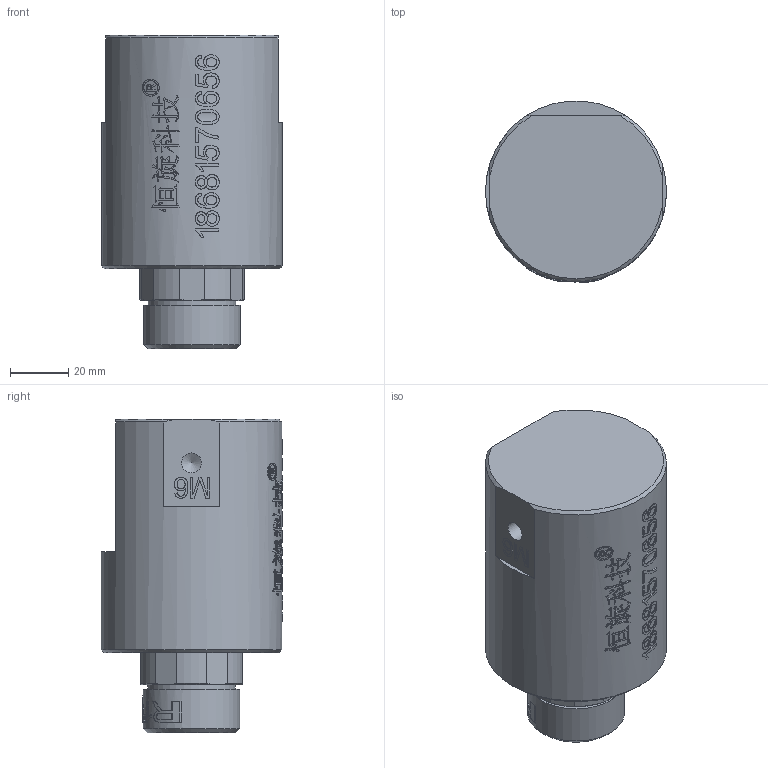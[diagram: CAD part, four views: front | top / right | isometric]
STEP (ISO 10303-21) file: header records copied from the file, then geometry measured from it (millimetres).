
FILE_DESCRIPTION(/* description */ (''),/* implementation_level */ '2;1');
FILE_NAME(/* name */ 'HC0108(RH)-3D模型.stp',/* time_stamp */ '2025-07-09T08:09:06+08:00',/* author */ (''),/* organization */ (''),/* preprocessor_version */ 'ST-DEVELOPER v16.7',/* originating_system */ 'SIEMENS PLM Software NX 12.0',/* authorisation */ '');
FILE_SCHEMA (('AUTOMOTIVE_DESIGN { 1 0 10303 214 3 1 1 1 }'));
Length unit declared in the file: millimetre
Products named in the file (1): Admi1300D6723uy0
Bounding box: 62 x 62.2 x 107.5 mm (x, y, z)
Volume: 210275.5 mm3; surface area: 34382.8 mm2
Topology: 1 solids, 1 shells, 919 faces, 2539 edges, 1692 vertices
Faces by surface type: extrusion 486, plane 336, bspline 44, cylinder 40, cone 13
Full cylindrical faces by diameter (mm): 3 x2, 6.8 x2, 20 x1, 24 x1, 30 x1, 30.3 x1, 33.2 x1, 55 x1, 58 x1, 62 x1
Entity records: 36767 total; most frequent: CARTESIAN_POINT 17189, ORIENTED_EDGE 5014, EDGE_CURVE 2507, B_SPLINE_CURVE_WITH_KNOTS 2441, DIRECTION 2063, VERTEX_POINT 1679, EDGE_LOOP 1008, ADVANCED_FACE 919
